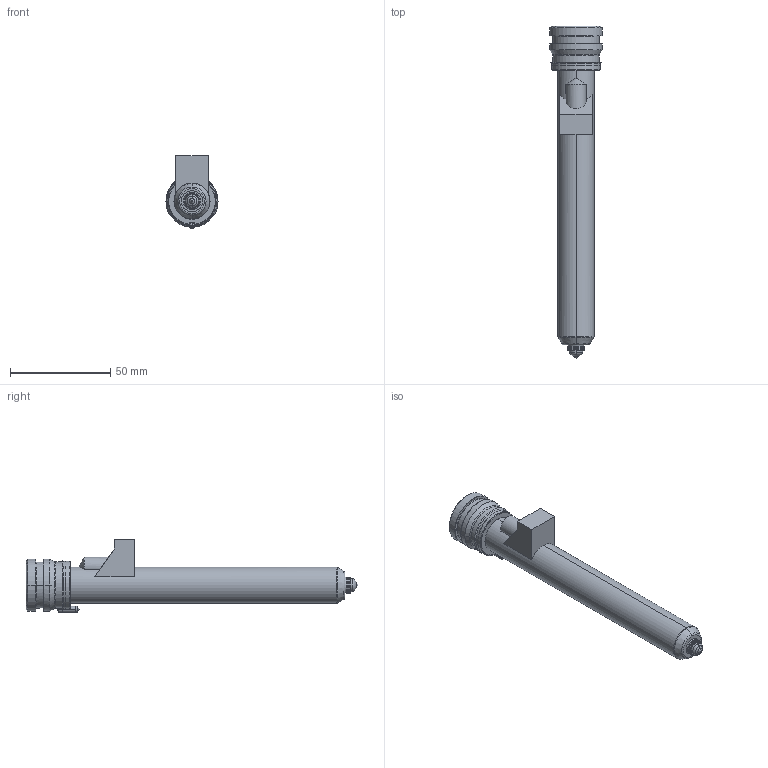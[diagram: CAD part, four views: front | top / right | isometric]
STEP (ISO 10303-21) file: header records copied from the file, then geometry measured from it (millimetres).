
FILE_DESCRIPTION((''),'2;1');
FILE_NAME('TH18147_5-M-1B15-PK-JG','2023-12-14T',('umhib'),('Thermoplay S.p.A.'),'PRO/ENGINEER BY PARAMETRIC TECHNOLOGY CORPORATION, 2017170','PRO/ENGINEER BY PARAMETRIC TECHNOLOGY CORPORATION, 2017170','');
FILE_SCHEMA(('CONFIG_CONTROL_DESIGN'));
Length unit declared in the file: millimetre
Products named in the file (1): TH18147_5-M-1B15-PK-JG
Bounding box: 26 x 165.5 x 36.1 mm (x, y, z)
Volume: 33305.4 mm3; surface area: 25216.8 mm2
Topology: 1 solids, 2 shells, 393 faces, 1003 edges, 615 vertices
Faces by surface type: cylinder 149, plane 87, cone 64, torus 58, bspline 22, sphere 11, extrusion 2
Entity records: 16871 total; most frequent: CARTESIAN_POINT 5188, DIRECTION 2010, ORIENTED_EDGE 1980, EDGE_CURVE 992, AXIS2_PLACEMENT_3D 810, VERTEX_POINT 615, CIRCLE 440, EDGE_LOOP 416
